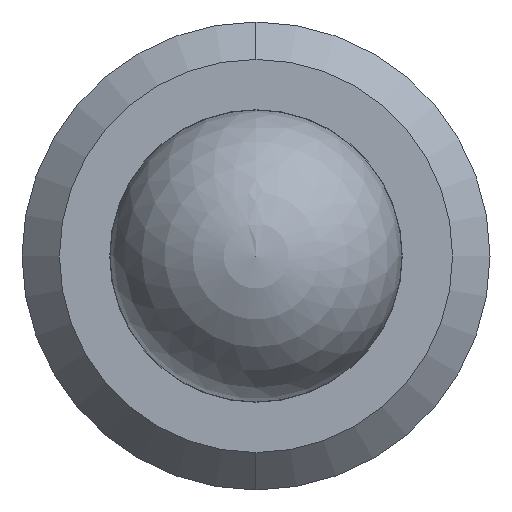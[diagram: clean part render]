
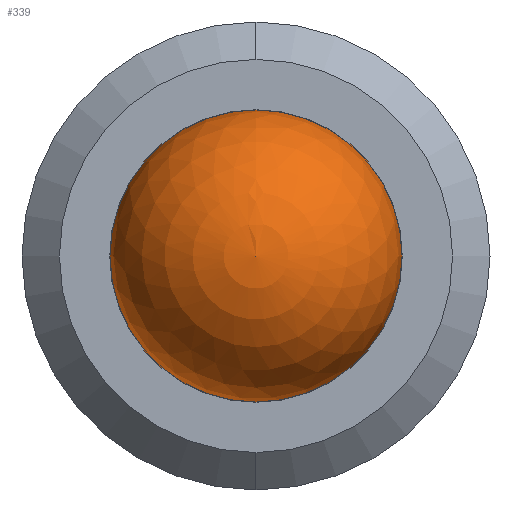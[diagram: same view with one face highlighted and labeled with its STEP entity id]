
A CAD part, left-side view. The second image highlights one B-rep face of the part: STEP entity #339.
In plain terms, the highlighted spherical face has radius 1.984 mm.
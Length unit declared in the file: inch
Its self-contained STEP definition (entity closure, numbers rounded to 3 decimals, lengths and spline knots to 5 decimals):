
#25 = VERTEX_POINT ( 'NONE', #163 ) ;
#42 = EDGE_LOOP ( 'NONE', ( #376, #161 ) ) ;
#56 = AXIS2_PLACEMENT_3D ( 'NONE', #246, #287, #317 ) ;
#66 = EDGE_CURVE ( 'NONE', #577, #25, #452, .T. ) ;
#114 = DIRECTION ( 'NONE',  ( 1., 0., 0. ) ) ;
#119 = EDGE_CURVE ( 'NONE', #577, #25, #338, .T. ) ;
#147 = FACE_OUTER_BOUND ( 'NONE', #42, .T. ) ;
#152 = SPHERICAL_SURFACE ( 'NONE', #56, 0.07813 ) ;
#161 = ORIENTED_EDGE ( 'NONE', *, *, #66, .T. ) ;
#163 = CARTESIAN_POINT ( 'NONE',  ( 0., -0.07813, 0. ) ) ;
#246 = CARTESIAN_POINT ( 'NONE',  ( 0., 0., 0. ) ) ;
#287 = DIRECTION ( 'NONE',  ( -1., 0., 0. ) ) ;
#317 = DIRECTION ( 'NONE',  ( 0., 0., 1. ) ) ;
#332 = AXIS2_PLACEMENT_3D ( 'NONE', #348, #114, #400 ) ;
#338 = CIRCLE ( 'NONE', #332, 0.07813 ) ;
#339 = ADVANCED_FACE ( 'NONE', ( #147 ), #152, .T. ) ;
#348 = CARTESIAN_POINT ( 'NONE',  ( 0., 0., 0. ) ) ;
#376 = ORIENTED_EDGE ( 'NONE', *, *, #119, .F. ) ;
#400 = DIRECTION ( 'NONE',  ( 0., 0., -1. ) ) ;
#401 = DIRECTION ( 'NONE',  ( 0., 0., 1. ) ) ;
#420 = AXIS2_PLACEMENT_3D ( 'NONE', #453, #575, #401 ) ;
#452 = CIRCLE ( 'NONE', #420, 0.07813 ) ;
#453 = CARTESIAN_POINT ( 'NONE',  ( 0., 0., 0. ) ) ;
#569 = CARTESIAN_POINT ( 'NONE',  ( 0., 0.07813, 0. ) ) ;
#575 = DIRECTION ( 'NONE',  ( -1., 0., 0. ) ) ;
#577 = VERTEX_POINT ( 'NONE', #569 ) ;
